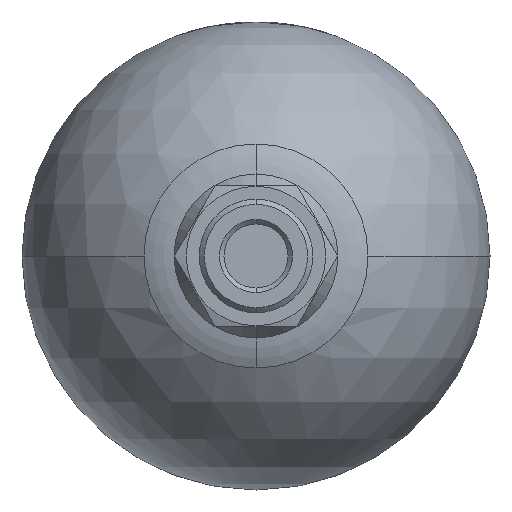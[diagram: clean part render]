
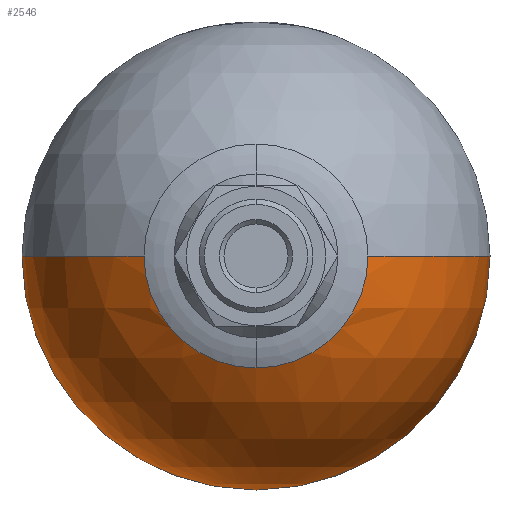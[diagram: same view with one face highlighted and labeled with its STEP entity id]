
A CAD part, front view. The second image highlights one B-rep face of the part: STEP entity #2546.
In plain terms, the highlighted spherical face has radius 68 mm.
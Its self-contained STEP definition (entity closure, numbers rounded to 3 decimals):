
#148 = AXIS2_PLACEMENT_3D ( 'NONE', #9632, #6995, #3386 ) ;
#1113 = DIRECTION ( 'NONE',  ( 0., 0., 1. ) ) ;
#1302 = SPHERICAL_SURFACE ( 'NONE', #3467, 68. ) ;
#1538 = CARTESIAN_POINT ( 'NONE',  ( 68., 63., 0. ) ) ;
#1585 = CARTESIAN_POINT ( 'NONE',  ( 32.543, 3.293, 0. ) ) ;
#1618 = DIRECTION ( 'NONE',  ( 0., 0., -1. ) ) ;
#2005 = AXIS2_PLACEMENT_3D ( 'NONE', #3651, #9897, #8078 ) ;
#2338 = CARTESIAN_POINT ( 'NONE',  ( 0., 63., 0. ) ) ;
#2401 = ORIENTED_EDGE ( 'NONE', *, *, #2759, .F. ) ;
#2452 = AXIS2_PLACEMENT_3D ( 'NONE', #6939, #10518, #1113 ) ;
#2456 = DIRECTION ( 'NONE',  ( 0., 0., 1. ) ) ;
#2546 = ADVANCED_FACE ( 'NONE', ( #3179 ), #1302, .T. ) ;
#2562 = AXIS2_PLACEMENT_3D ( 'NONE', #2338, #3437, #2456 ) ;
#2759 = EDGE_CURVE ( 'NONE', #10868, #6384, #6463, .T. ) ;
#2841 = CARTESIAN_POINT ( 'NONE',  ( 0., 3.293, -32.543 ) ) ;
#3035 = EDGE_CURVE ( 'NONE', #6384, #3748, #7570, .T. ) ;
#3138 = AXIS2_PLACEMENT_3D ( 'NONE', #8954, #1618, #3520 ) ;
#3179 = FACE_OUTER_BOUND ( 'NONE', #7398, .T. ) ;
#3313 = ORIENTED_EDGE ( 'NONE', *, *, #5589, .T. ) ;
#3386 = DIRECTION ( 'NONE',  ( 0., 0., 1. ) ) ;
#3437 = DIRECTION ( 'NONE',  ( 0., 1., 0. ) ) ;
#3467 = AXIS2_PLACEMENT_3D ( 'NONE', #5848, #7466, #8418 ) ;
#3520 = DIRECTION ( 'NONE',  ( -1., 0., 0. ) ) ;
#3651 = CARTESIAN_POINT ( 'NONE',  ( 0., 63., 0. ) ) ;
#3748 = VERTEX_POINT ( 'NONE', #6996 ) ;
#3941 = EDGE_CURVE ( 'NONE', #3748, #9180, #4610, .T. ) ;
#4283 = EDGE_CURVE ( 'NONE', #9814, #9180, #7034, .T. ) ;
#4528 = CARTESIAN_POINT ( 'NONE',  ( 0., 3.293, 0. ) ) ;
#4610 = CIRCLE ( 'NONE', #148, 68. ) ;
#4684 = ORIENTED_EDGE ( 'NONE', *, *, #4283, .T. ) ;
#5029 = CIRCLE ( 'NONE', #5960, 32.543 ) ;
#5299 = DIRECTION ( 'NONE',  ( 0., 0., 1. ) ) ;
#5328 = ORIENTED_EDGE ( 'NONE', *, *, #6518, .T. ) ;
#5589 = EDGE_CURVE ( 'NONE', #10868, #5642, #5029, .T. ) ;
#5642 = VERTEX_POINT ( 'NONE', #2841 ) ;
#5848 = CARTESIAN_POINT ( 'NONE',  ( 0., 63., 0. ) ) ;
#5960 = AXIS2_PLACEMENT_3D ( 'NONE', #4528, #8018, #5299 ) ;
#6166 = CIRCLE ( 'NONE', #2452, 32.543 ) ;
#6384 = VERTEX_POINT ( 'NONE', #1538 ) ;
#6463 = CIRCLE ( 'NONE', #2005, 68. ) ;
#6518 = EDGE_CURVE ( 'NONE', #5642, #9814, #6166, .T. ) ;
#6939 = CARTESIAN_POINT ( 'NONE',  ( 0., 3.293, 0. ) ) ;
#6995 = DIRECTION ( 'NONE',  ( 0., 1., 0. ) ) ;
#6996 = CARTESIAN_POINT ( 'NONE',  ( 0., 63., -68. ) ) ;
#7034 = CIRCLE ( 'NONE', #3138, 68. ) ;
#7109 = ORIENTED_EDGE ( 'NONE', *, *, #3035, .F. ) ;
#7186 = CARTESIAN_POINT ( 'NONE',  ( -32.543, 3.293, 0. ) ) ;
#7373 = ORIENTED_EDGE ( 'NONE', *, *, #3941, .F. ) ;
#7398 = EDGE_LOOP ( 'NONE', ( #3313, #5328, #4684, #7373, #7109, #2401 ) ) ;
#7466 = DIRECTION ( 'NONE',  ( 0., 0., -1. ) ) ;
#7570 = CIRCLE ( 'NONE', #2562, 68. ) ;
#8018 = DIRECTION ( 'NONE',  ( 0., 1., 0. ) ) ;
#8078 = DIRECTION ( 'NONE',  ( 1., 0., 0. ) ) ;
#8418 = DIRECTION ( 'NONE',  ( 1., 0., 0. ) ) ;
#8954 = CARTESIAN_POINT ( 'NONE',  ( 0., 63., 0. ) ) ;
#9180 = VERTEX_POINT ( 'NONE', #10136 ) ;
#9632 = CARTESIAN_POINT ( 'NONE',  ( 0., 63., 0. ) ) ;
#9814 = VERTEX_POINT ( 'NONE', #7186 ) ;
#9897 = DIRECTION ( 'NONE',  ( 0., 0., 1. ) ) ;
#10136 = CARTESIAN_POINT ( 'NONE',  ( -68., 63., 0. ) ) ;
#10518 = DIRECTION ( 'NONE',  ( 0., 1., 0. ) ) ;
#10868 = VERTEX_POINT ( 'NONE', #1585 ) ;
